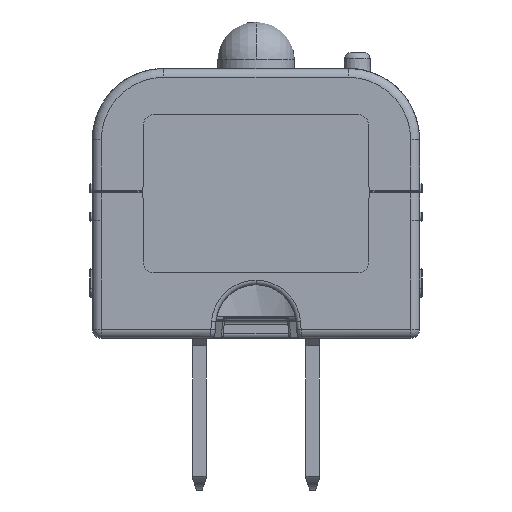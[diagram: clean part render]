
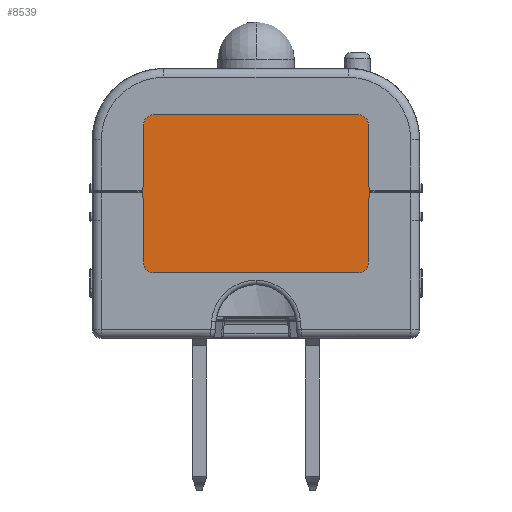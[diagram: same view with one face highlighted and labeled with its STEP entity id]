
A CAD part, front view. The second image highlights one B-rep face of the part: STEP entity #8539.
In plain terms, the highlighted planar face has unit normal (0, -1, 0).
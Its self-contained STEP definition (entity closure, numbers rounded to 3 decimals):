
#221 = DIRECTION ( 'NONE',  ( 0., 1., 0. ) ) ;
#360 = EDGE_CURVE ( 'NONE', #11673, #14065, #23325, .T. ) ;
#480 = LINE ( 'NONE', #2148, #17337 ) ;
#762 = EDGE_LOOP ( 'NONE', ( #10596, #6013, #20728, #5501, #5514, #9378, #3016, #11259, #14394, #8151, #18261, #4535, #1676, #12184 ) ) ;
#1082 = EDGE_CURVE ( 'NONE', #7966, #11673, #23228, .T. ) ;
#1101 = DIRECTION ( 'NONE',  ( 1., 0., 0. ) ) ;
#1343 = EDGE_CURVE ( 'NONE', #19612, #16017, #21809, .T. ) ;
#1348 = CARTESIAN_POINT ( 'NONE',  ( 11.5, -67., 21.95 ) ) ;
#1514 = DIRECTION ( 'NONE',  ( 0., 1., 0. ) ) ;
#1565 = CARTESIAN_POINT ( 'NONE',  ( -12.6, -67., 6.44 ) ) ;
#1658 = EDGE_CURVE ( 'NONE', #22215, #21036, #6655, .T. ) ;
#1676 = ORIENTED_EDGE ( 'NONE', *, *, #10368, .T. ) ;
#1709 = DIRECTION ( 'NONE',  ( 0., 1., 0. ) ) ;
#1828 = CARTESIAN_POINT ( 'NONE',  ( -12.769, -67., 14.3 ) ) ;
#1856 = CARTESIAN_POINT ( 'NONE',  ( 11.5, -67., 6.45 ) ) ;
#2148 = CARTESIAN_POINT ( 'NONE',  ( 12.613, -67., 20.515 ) ) ;
#2411 = CARTESIAN_POINT ( 'NONE',  ( -12.6, -67., 21.96 ) ) ;
#2690 = AXIS2_PLACEMENT_3D ( 'NONE', #15901, #1514, #21593 ) ;
#3016 = ORIENTED_EDGE ( 'NONE', *, *, #4473, .T. ) ;
#3048 = VERTEX_POINT ( 'NONE', #5269 ) ;
#3255 = LINE ( 'NONE', #6942, #11012 ) ;
#3307 = CIRCLE ( 'NONE', #13922, 1.1 ) ;
#3492 = CARTESIAN_POINT ( 'NONE',  ( 12.6, -67., 21.96 ) ) ;
#3524 = DIRECTION ( 'NONE',  ( -1., 0., 0. ) ) ;
#4094 = CARTESIAN_POINT ( 'NONE',  ( 12.669, -67., 14.201 ) ) ;
#4102 = EDGE_CURVE ( 'NONE', #14820, #22155, #12852, .T. ) ;
#4473 = EDGE_CURVE ( 'NONE', #18137, #23235, #12870, .T. ) ;
#4534 = AXIS2_PLACEMENT_3D ( 'NONE', #12377, #8573, #21273 ) ;
#4535 = ORIENTED_EDGE ( 'NONE', *, *, #13237, .F. ) ;
#4687 = CARTESIAN_POINT ( 'NONE',  ( -11.5, -67., 23.05 ) ) ;
#4864 = CARTESIAN_POINT ( 'NONE',  ( 12.669, -67., 14.399 ) ) ;
#5269 = CARTESIAN_POINT ( 'NONE',  ( -12.669, -67., 14.399 ) ) ;
#5413 = CARTESIAN_POINT ( 'NONE',  ( 11.5, -67., 5.35 ) ) ;
#5501 = ORIENTED_EDGE ( 'NONE', *, *, #13322, .F. ) ;
#5514 = ORIENTED_EDGE ( 'NONE', *, *, #14374, .F. ) ;
#5825 = DIRECTION ( 'NONE',  ( 0., 1., 0. ) ) ;
#5826 = CARTESIAN_POINT ( 'NONE',  ( -12.769, -67., 14.2 ) ) ;
#5878 = VECTOR ( 'NONE', #10413, 1000. ) ;
#5950 = VECTOR ( 'NONE', #12796, 1000. ) ;
#6013 = ORIENTED_EDGE ( 'NONE', *, *, #360, .F. ) ;
#6060 = DIRECTION ( 'NONE',  ( 0., 0., 1. ) ) ;
#6543 = VERTEX_POINT ( 'NONE', #4094 ) ;
#6630 = CARTESIAN_POINT ( 'NONE',  ( -12.611, -67., 20.716 ) ) ;
#6655 = CIRCLE ( 'NONE', #23323, 1.1 ) ;
#6942 = CARTESIAN_POINT ( 'NONE',  ( 11., -67., 23.05 ) ) ;
#7073 = DIRECTION ( 'NONE',  ( 0., 0., 1. ) ) ;
#7126 = DIRECTION ( 'NONE',  ( 0., 1., 0. ) ) ;
#7570 = CARTESIAN_POINT ( 'NONE',  ( 12.725, -67., 20.485 ) ) ;
#7966 = VERTEX_POINT ( 'NONE', #14448 ) ;
#8151 = ORIENTED_EDGE ( 'NONE', *, *, #17281, .F. ) ;
#8179 = CARTESIAN_POINT ( 'NONE',  ( -12.769, -67., 14.4 ) ) ;
#8539 = ADVANCED_FACE ( 'NONE', ( #17814 ), #21474, .F. ) ;
#8573 = DIRECTION ( 'NONE',  ( 0., 1., 0. ) ) ;
#8912 = CARTESIAN_POINT ( 'NONE',  ( -11.5, -67., 6.45 ) ) ;
#9274 = AXIS2_PLACEMENT_3D ( 'NONE', #5826, #20076, #16172 ) ;
#9378 = ORIENTED_EDGE ( 'NONE', *, *, #21416, .T. ) ;
#9763 = DIRECTION ( 'NONE',  ( -0.009, 0., 1. ) ) ;
#10368 = EDGE_CURVE ( 'NONE', #3048, #19612, #20957, .T. ) ;
#10413 = DIRECTION ( 'NONE',  ( 0.009, 0., 1. ) ) ;
#10596 = ORIENTED_EDGE ( 'NONE', *, *, #23052, .F. ) ;
#10972 = CARTESIAN_POINT ( 'NONE',  ( 11.5, -67., 23.05 ) ) ;
#11012 = VECTOR ( 'NONE', #1101, 1000. ) ;
#11088 = VERTEX_POINT ( 'NONE', #16517 ) ;
#11259 = ORIENTED_EDGE ( 'NONE', *, *, #14163, .F. ) ;
#11673 = VERTEX_POINT ( 'NONE', #19293 ) ;
#11714 = AXIS2_PLACEMENT_3D ( 'NONE', #1348, #1709, #7073 ) ;
#12184 = ORIENTED_EDGE ( 'NONE', *, *, #1343, .T. ) ;
#12377 = CARTESIAN_POINT ( 'NONE',  ( 12.769, -67., 14.4 ) ) ;
#12796 = DIRECTION ( 'NONE',  ( -0.009, 0., -1. ) ) ;
#12852 = CIRCLE ( 'NONE', #11714, 1.1 ) ;
#12870 = CIRCLE ( 'NONE', #4534, 0.1 ) ;
#12902 = DIRECTION ( 'NONE',  ( 0., 0., -1. ) ) ;
#12926 = DIRECTION ( 'NONE',  ( 0., 0., 1. ) ) ;
#13237 = EDGE_CURVE ( 'NONE', #3048, #22215, #19430, .T. ) ;
#13322 = EDGE_CURVE ( 'NONE', #11088, #7966, #3307, .T. ) ;
#13922 = AXIS2_PLACEMENT_3D ( 'NONE', #1856, #20148, #12902 ) ;
#14065 = VERTEX_POINT ( 'NONE', #1565 ) ;
#14163 = EDGE_CURVE ( 'NONE', #22155, #23235, #480, .T. ) ;
#14374 = EDGE_CURVE ( 'NONE', #6543, #11088, #16256, .T. ) ;
#14394 = ORIENTED_EDGE ( 'NONE', *, *, #4102, .F. ) ;
#14395 = DIRECTION ( 'NONE',  ( 0., 0., -1. ) ) ;
#14448 = CARTESIAN_POINT ( 'NONE',  ( 11.5, -67., 5.35 ) ) ;
#14641 = AXIS2_PLACEMENT_3D ( 'NONE', #8912, #221, #14395 ) ;
#14820 = VERTEX_POINT ( 'NONE', #10972 ) ;
#14903 = AXIS2_PLACEMENT_3D ( 'NONE', #8179, #20987, #15426 ) ;
#15372 = VECTOR ( 'NONE', #3524, 1000. ) ;
#15426 = DIRECTION ( 'NONE',  ( 0., 0., 1. ) ) ;
#15901 = CARTESIAN_POINT ( 'NONE',  ( 11., -67., 20.5 ) ) ;
#16017 = VERTEX_POINT ( 'NONE', #16914 ) ;
#16077 = VECTOR ( 'NONE', #9763, 1000. ) ;
#16078 = AXIS2_PLACEMENT_3D ( 'NONE', #18767, #5825, #6060 ) ;
#16172 = DIRECTION ( 'NONE',  ( 0., 0., 1. ) ) ;
#16256 = LINE ( 'NONE', #7570, #5950 ) ;
#16517 = CARTESIAN_POINT ( 'NONE',  ( 12.6, -67., 6.44 ) ) ;
#16914 = CARTESIAN_POINT ( 'NONE',  ( -12.669, -67., 14.201 ) ) ;
#17281 = EDGE_CURVE ( 'NONE', #21036, #14820, #3255, .T. ) ;
#17337 = VECTOR ( 'NONE', #22230, 1000. ) ;
#17404 = CARTESIAN_POINT ( 'NONE',  ( 12.769, -67., 14.3 ) ) ;
#17814 = FACE_OUTER_BOUND ( 'NONE', #762, .T. ) ;
#18137 = VERTEX_POINT ( 'NONE', #17404 ) ;
#18261 = ORIENTED_EDGE ( 'NONE', *, *, #1658, .F. ) ;
#18303 = CIRCLE ( 'NONE', #16078, 0.1 ) ;
#18767 = CARTESIAN_POINT ( 'NONE',  ( 12.769, -67., 14.2 ) ) ;
#19137 = LINE ( 'NONE', #22816, #16077 ) ;
#19293 = CARTESIAN_POINT ( 'NONE',  ( -11.5, -67., 5.35 ) ) ;
#19430 = LINE ( 'NONE', #6630, #5878 ) ;
#19612 = VERTEX_POINT ( 'NONE', #1828 ) ;
#20076 = DIRECTION ( 'NONE',  ( 0., 1., 0. ) ) ;
#20148 = DIRECTION ( 'NONE',  ( 0., 1., 0. ) ) ;
#20728 = ORIENTED_EDGE ( 'NONE', *, *, #1082, .F. ) ;
#20957 = CIRCLE ( 'NONE', #14903, 0.1 ) ;
#20987 = DIRECTION ( 'NONE',  ( 0., 1., 0. ) ) ;
#21036 = VERTEX_POINT ( 'NONE', #4687 ) ;
#21273 = DIRECTION ( 'NONE',  ( 0., 0., 1. ) ) ;
#21416 = EDGE_CURVE ( 'NONE', #6543, #18137, #18303, .T. ) ;
#21474 = PLANE ( 'NONE',  #2690 ) ;
#21593 = DIRECTION ( 'NONE',  ( 0., 0., 1. ) ) ;
#21809 = CIRCLE ( 'NONE', #9274, 0.1 ) ;
#22155 = VERTEX_POINT ( 'NONE', #3492 ) ;
#22215 = VERTEX_POINT ( 'NONE', #2411 ) ;
#22230 = DIRECTION ( 'NONE',  ( 0.009, 0., -1. ) ) ;
#22816 = CARTESIAN_POINT ( 'NONE',  ( -12.723, -67., 20.289 ) ) ;
#23052 = EDGE_CURVE ( 'NONE', #14065, #16017, #19137, .T. ) ;
#23228 = LINE ( 'NONE', #5413, #15372 ) ;
#23235 = VERTEX_POINT ( 'NONE', #4864 ) ;
#23323 = AXIS2_PLACEMENT_3D ( 'NONE', #23491, #7126, #12926 ) ;
#23325 = CIRCLE ( 'NONE', #14641, 1.1 ) ;
#23491 = CARTESIAN_POINT ( 'NONE',  ( -11.5, -67., 21.95 ) ) ;
